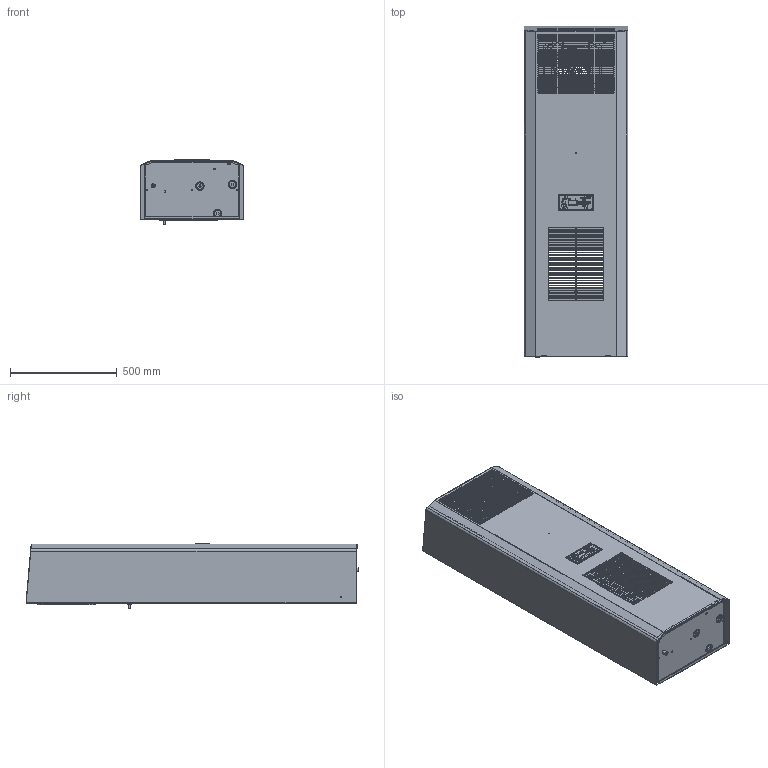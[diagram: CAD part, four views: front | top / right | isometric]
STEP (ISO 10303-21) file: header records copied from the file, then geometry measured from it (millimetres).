
FILE_DESCRIPTION (( 'STEP AP203' ), '1' );
FILE_NAME ('30442-971.STEP', '2021-11-19T13:47:42', ( '' ), ( '' ), 'SwSTEP 2.0', 'SolidWorks 2021', '' );
FILE_SCHEMA (( 'CONFIG_CONTROL_DESIGN' ));
Products named in the file (1): 30442-971
Bounding box: 485 x 1552.37 x 302.29 mm (x, y, z)
Volume: 3704602.6 mm3; surface area: 6632818.8 mm2
Topology: 19 solids, 20 shells, 5075 faces, 13962 edges, 9041 vertices
Faces by surface type: plane 3061, cylinder 1288, bspline 482, torus 160, cone 84
Entity records: 195048 total; most frequent: CARTESIAN_POINT 65776, ORIENTED_EDGE 27924, DIRECTION 24588, EDGE_CURVE 13962, LINE 9536, VECTOR 9536, VERTEX_POINT 9041, AXIS2_PLACEMENT_3D 7526
